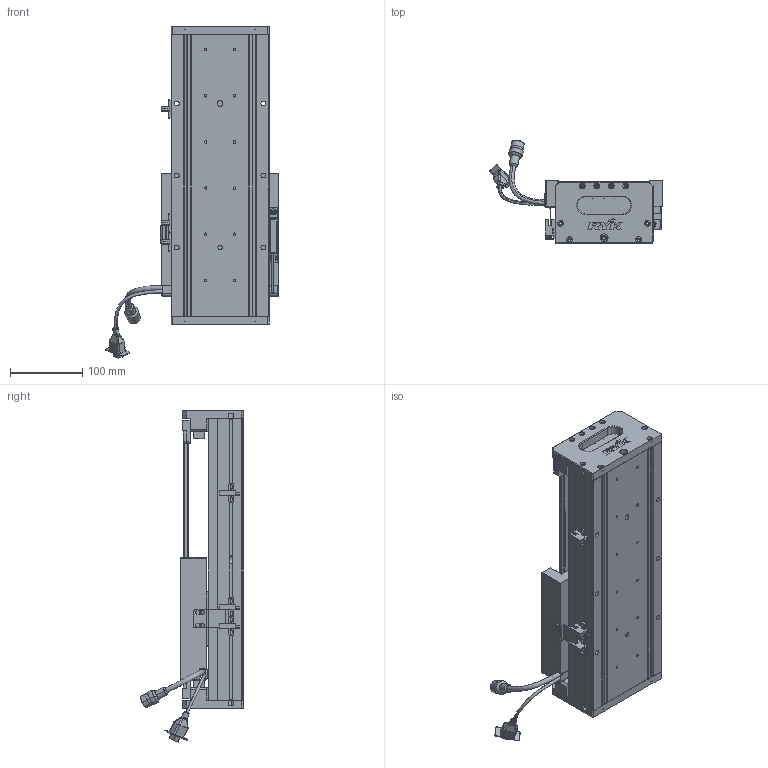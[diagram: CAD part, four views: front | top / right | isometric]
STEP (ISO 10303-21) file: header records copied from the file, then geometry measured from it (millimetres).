
FILE_DESCRIPTION (( 'STEP AP203' ), '1' );
FILE_NAME ('Z2-RY140D-1-L500-B-K.SLDASM_0150.step', '2021-05-17T07:44:30', ( '盈信电脑' ), ( '东莞市道滘镇水果街19号' ), 'SwSTEP 2.0', 'SolidWorks 2016', '' );
FILE_SCHEMA (( 'CONFIG_CONTROL_DESIGN' ));
Length unit declared in the file: millimetre
Products named in the file (36): SCALE-Part-2; 140雄赽晤鎢ん堤盄; SCREW-M1.6; SEAL; SCALE-Part-1; Z2-RY140圉猾敕臏賑輸(21遴); SCREW-M1.7-1; SCREW-M1.6-3; LABEL; HOLDER0; SCREW-M1.7; Z-RY140詩湍奻揤裔; Z-140詩湍傷裔啣; SEAL-Part-1; Z2-RY140-L500直线电机模组底座_0150; HARNESS; 140蚥薯蝶輸; 榋妏寠巭燃_暯_M2_2; PBU_SHEET; SHIELDPLATE; SCREW-M1.6-1; SCALE; 140-Z-臏賑輸盄裔(21遴); COVER; SCREW-M1.6-2; 080黍杅芛假蚾釱21遴; HARNESS-Part-2; Z-RY140詩湍狟揤裔; 覜茼ん672; HARNESS-Part-1; Z2-RY140-L500詩湍100mm遵_0150; LABEL-Part-1; Z2-RY140D-1-L500-B-K.SLDASM_0150; Z-RY140感应器672光电感应片; PSLH080_PSLF2; COVER-Part-1
Assembly tree (41 placements, depth 4):
  Z2-RY140D-1-L500-B-K.SLDASM_0150
    Z2-RY140-L500直线电机模组底座_0150
    Z-RY140感应器672光电感应片
    Z2-RY140圉猾敕臏賑輸(21遴)
    覜茼ん672  x3
    Z2-RY140-L500詩湍100mm遵_0150
    PSLH080_PSLF2
      SCALE
        SCALE-Part-1
        SCALE-Part-2
      HARNESS
        HARNESS-Part-1
        HARNESS-Part-2
      LABEL
        LABEL-Part-1
      COVER
        COVER-Part-1
      SEAL
        SEAL-Part-1
      榋妏寠巭燃_暯_M2_2
      SHIELDPLATE
      SCREW-M1.7
      SCREW-M1.7-1
      PBU_SHEET
      SCREW-M1.6
      SCREW-M1.6-1
      SCREW-M1.6-2
      SCREW-M1.6-3
      HOLDER0
    080黍杅芛假蚾釱21遴
    140-Z-臏賑輸盄裔(21遴)
    Z-140詩湍傷裔啣  x2
    Z-RY140詩湍狟揤裔  x2
    Z-RY140詩湍奻揤裔  x2
    140蚥薯蝶輸  x2
    140雄赽晤鎢ん堤盄
Bounding box: 239.84 x 143.77 x 460.88 mm (x, y, z)
Volume: 2115335.3 mm3; surface area: 552744.5 mm2
Topology: 36 solids, 36 shells, 2468 faces, 6364 edges, 4027 vertices
Faces by surface type: plane 1052, cylinder 1042, cone 242, torus 79, bspline 53
Entity records: 68408 total; most frequent: CARTESIAN_POINT 15915, DIRECTION 10296, ORIENTED_EDGE 9952, EDGE_CURVE 4976, AXIS2_PLACEMENT_3D 3756, VERTEX_POINT 3195, VECTOR 2784, LINE 2784
